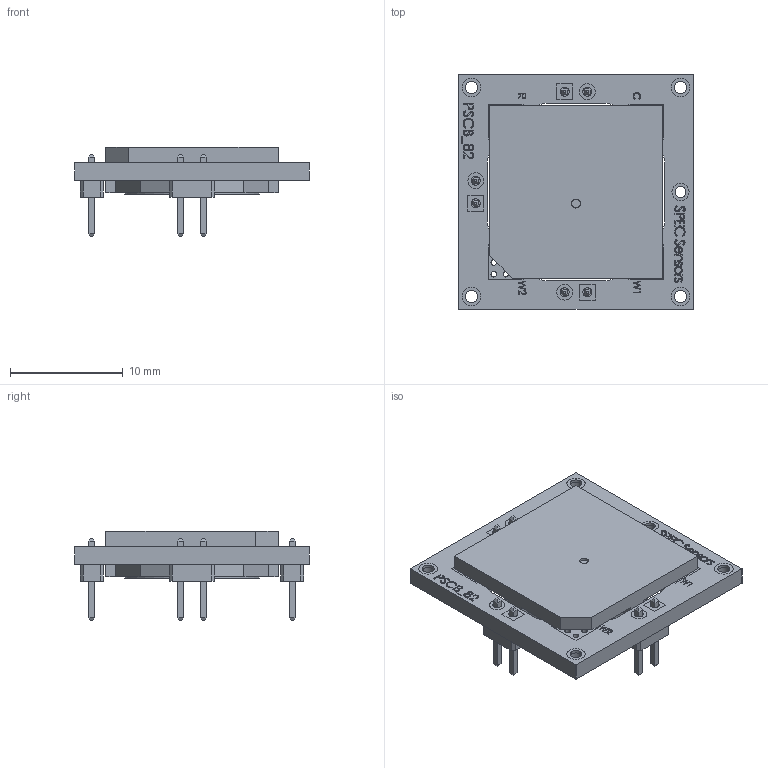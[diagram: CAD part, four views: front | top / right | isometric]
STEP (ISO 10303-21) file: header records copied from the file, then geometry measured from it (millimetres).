
FILE_DESCRIPTION (( 'STEP AP214' ), '1' );
FILE_NAME ('110-102 STEP.STEP', '2023-06-20T19:48:52', ( '' ), ( '' ), 'SwSTEP 2.0', 'SolidWorks 2017', '' );
FILE_SCHEMA (( 'AUTOMOTIVE_DESIGN' ));
Length unit declared in the file: millimetre
Products named in the file (6): Zebra Barcode; 110-102 STEP; 100-102 STEP; 981-001; pinconnector
Assembly tree (7 placements, depth 3):
  110-102 STEP
    100-102 STEP
    Zebra Barcode
    981-001
      981-001
      pinconnector  x3
Bounding box: 20.83 x 20.83 x 7.94 mm (x, y, z)
Volume: 1097.4 mm3; surface area: 2056.3 mm2
Topology: 51 solids, 51 shells, 767 faces, 1939 edges, 1290 vertices
Faces by surface type: plane 432, bspline 191, cylinder 144
Full cylindrical faces by diameter (mm): 0.5 x64, 0.787 x12, 0.8 x1, 0.965 x2, 1.067 x8, 1.397 x6, 1.524 x2, 1.651 x8, 12 x1
Entity records: 34315 total; most frequent: CARTESIAN_POINT 14010, ORIENTED_EDGE 3270, DIRECTION 2563, EDGE_CURVE 1635, VERTEX_POINT 1154, EDGE_LOOP 1003, LINE 965, VECTOR 965
